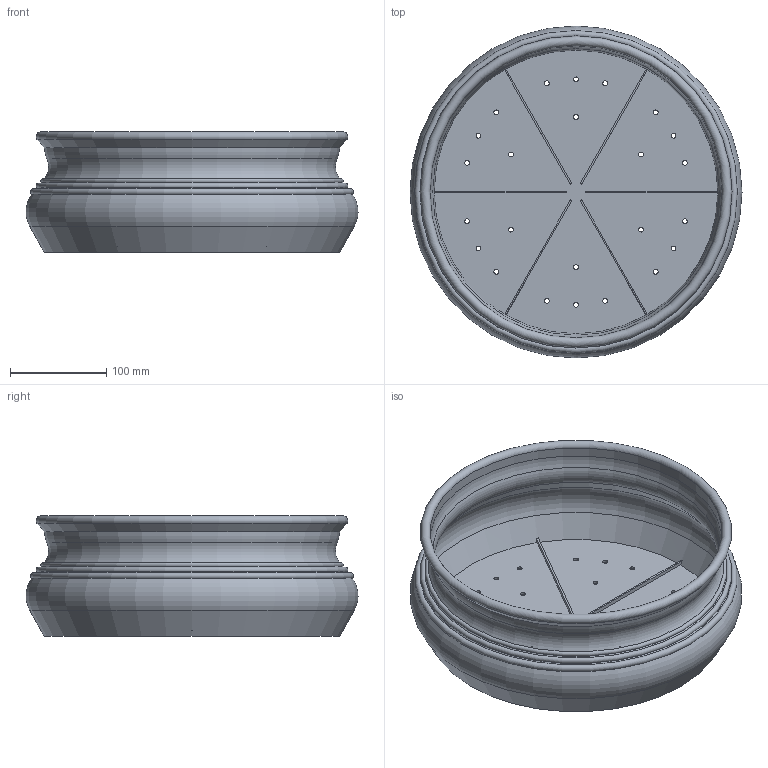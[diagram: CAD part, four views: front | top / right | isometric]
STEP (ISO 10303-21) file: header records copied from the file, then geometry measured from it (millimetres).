
FILE_DESCRIPTION(/* description */ (''),/* implementation_level */ '2;1');
FILE_NAME(/* name */ 'LR2406-S17-H125-D350_step.step',/* time_stamp */ '2024-02-01T11:03:38+01:00',/* author */ (''),/* organization */ (''),/* preprocessor_version */ 'ST-DEVELOPER v20',/* originating_system */ 'Autodesk Translation Framework v12.20.1.177',/* authorisation */ '');
FILE_SCHEMA (('AUTOMOTIVE_DESIGN { 1 0 10303 214 3 1 1 }'));
Length unit declared in the file: millimetre
Products named in the file (1): LR2406-S17-H125-D350
Bounding box: 344.71 x 344.71 x 125 mm (x, y, z)
Volume: 510275.6 mm3; surface area: 442657.8 mm2
Topology: 1 solids, 1 shells, 68 faces, 181 edges, 115 vertices
Faces by surface type: cylinder 31, plane 20, torus 10, cone 7
Full cylindrical faces by diameter (mm): 5 x24, 303.36 x1
Entity records: 2286 total; most frequent: DIRECTION 420, CARTESIAN_POINT 365, ORIENTED_EDGE 362, EDGE_CURVE 181, AXIS2_PLACEMENT_3D 170, EDGE_LOOP 116, VERTEX_POINT 115, CIRCLE 101
